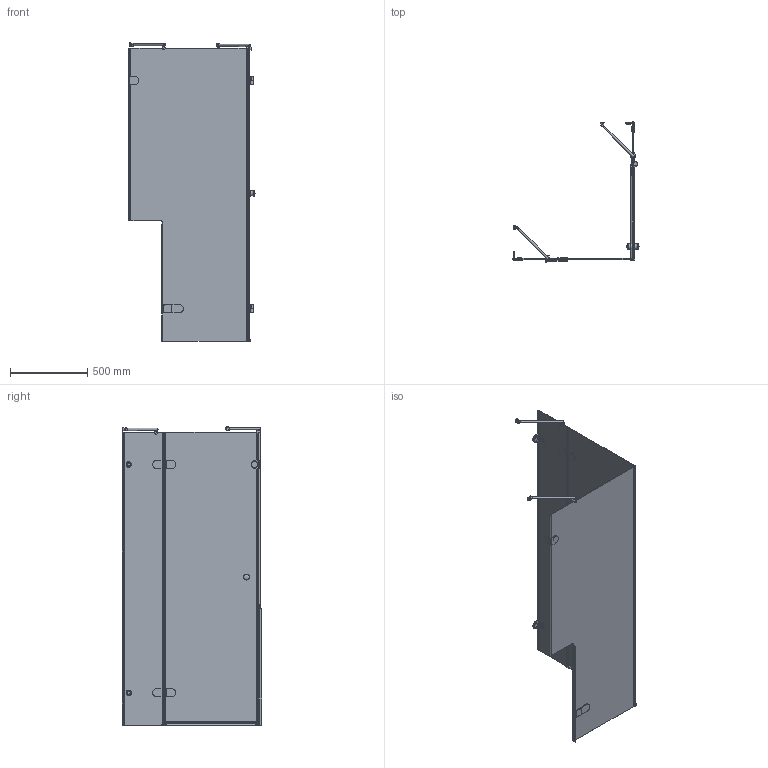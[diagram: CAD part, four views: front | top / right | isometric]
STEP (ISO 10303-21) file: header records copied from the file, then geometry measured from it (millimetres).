
FILE_DESCRIPTION(/* description */ (''),/* implementation_level */ '2;1');
FILE_NAME(/* name */ 'E:\Работа\Сергей\Душевые кабинки\! Работа\LUX SQUARE GK-003GC-2522V\LUX SQUARE GK-003GC-2522V правая модель\LUX SQUARE GK-003GC-2522V ПРАВАЯ-3D.stp',/* time_stamp */ '2017-06-03T19:13:05+03:00',/* author */ ('PC'),/* organization */ (''),/* preprocessor_version */ 'ST-DEVELOPER v15.2',/* originating_system */ 'Autodesk Inventor 2014',/* authorisation */ '');
FILE_SCHEMA (('AUTOMOTIVE_DESIGN { 1 0 10303 214 3 1 1 }'));
Length unit declared in the file: millimetre
Products named in the file (1): LUX SQUARE GK-003GC-2522V \X2\041F0420041004120410042F
\X0\-3D
Bounding box: 818 x 905.6 x 1936 mm (x, y, z)
Volume: 18925191.7 mm3; surface area: 6444672.5 mm2
Topology: 5 solids, 5 shells, 733 faces, 1845 edges, 1157 vertices
Faces by surface type: plane 499, cylinder 187, torus 21, bspline 12, sphere 11, cone 3
Full cylindrical faces by diameter (mm): 12 x2, 15 x2, 20 x4, 26 x2, 30 x3, 35 x3, 38 x4, 40 x3
Entity records: 22767 total; most frequent: CARTESIAN_POINT 4567, DIRECTION 3595, ORIENTED_EDGE 3560, EDGE_CURVE 1780, LINE 1279, VECTOR 1279, AXIS2_PLACEMENT_3D 1158, VERTEX_POINT 1134
